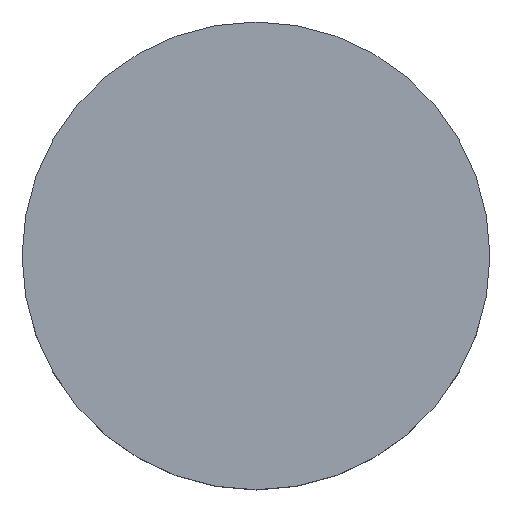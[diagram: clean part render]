
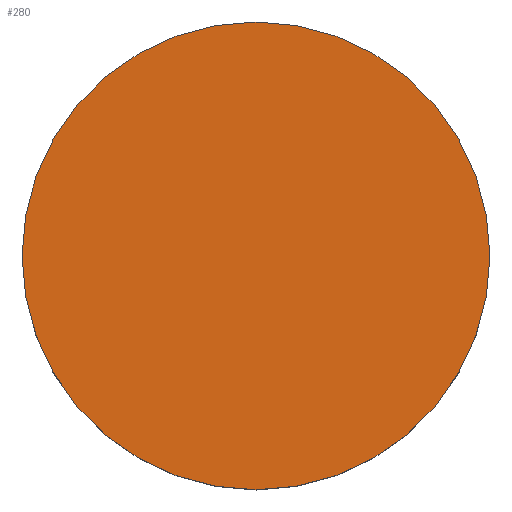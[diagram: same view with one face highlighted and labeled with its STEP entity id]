
A CAD part, top view. The second image highlights one B-rep face of the part: STEP entity #280.
In plain terms, the highlighted planar face has unit normal (0, 0, 1).
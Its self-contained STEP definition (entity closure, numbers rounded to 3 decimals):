
#11=CARTESIAN_POINT('',(0.,0.,0.));
#12=DIRECTION('',(0.,0.,-1.));
#13=DIRECTION('',(1.,0.,0.));
#14=AXIS2_PLACEMENT_3D('',#11,#12,#13);
#20=CARTESIAN_POINT('',(0.,0.,0.));
#21=DIRECTION('',(0.,0.,1.));
#22=DIRECTION('',(1.,0.,0.));
#23=AXIS2_PLACEMENT_3D('',#20,#21,#22);
#199=CARTESIAN_POINT('',(1.,0.,0.));
#201=VERTEX_POINT('',#199);
#221=CARTESIAN_POINT('',(-1.,0.,0.));
#223=VERTEX_POINT('',#221);
#271=CARTESIAN_POINT('',(0.,0.,0.));
#272=DIRECTION('',(0.,0.,-1.));
#273=DIRECTION('',(1.,0.,0.));
#274=AXIS2_PLACEMENT_3D('',#271,#272,#273);
#275=PLANE('',#274);
#276=ORIENTED_EDGE('',*,*,#264,.F.);
#277=ORIENTED_EDGE('',*,*,#253,.T.);
#278=EDGE_LOOP('',(#276,#277));
#279=FACE_OUTER_BOUND('',#278,.F.);
#280=ADVANCED_FACE('',(#279),#275,.F.);
#15=CIRCLE('',#14,1.);
#24=CIRCLE('',#23,1.);
#253=EDGE_CURVE('',#201,#223,#15,.T.);
#264=EDGE_CURVE('',#201,#223,#24,.T.);
